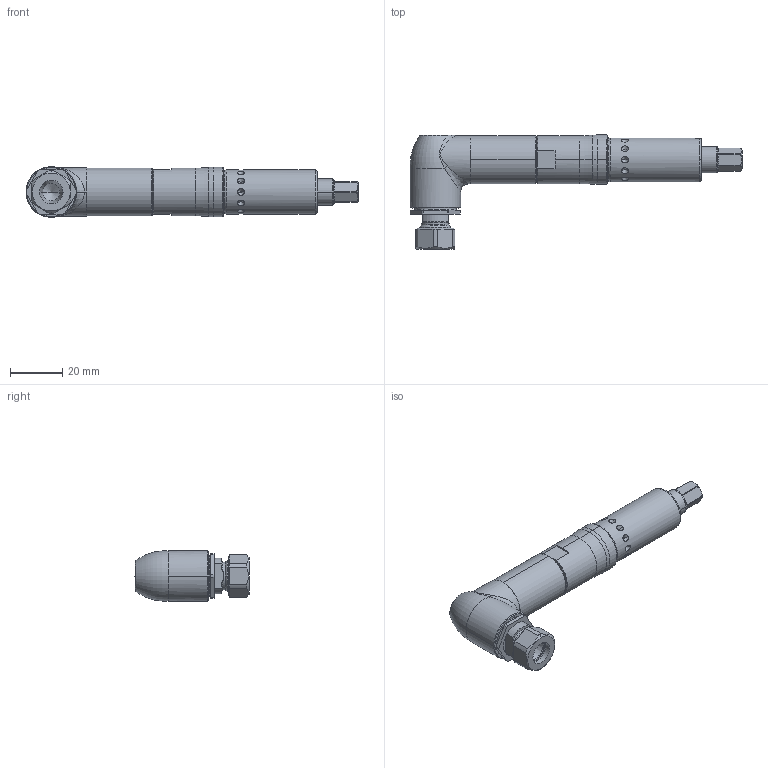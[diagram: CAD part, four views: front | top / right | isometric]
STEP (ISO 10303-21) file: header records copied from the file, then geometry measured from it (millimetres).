
FILE_DESCRIPTION((''),'2;1');
FILE_NAME('90_STD_QR','2008-10-27T',('sdanet'),(''),'PRO/ENGINEER BY PARAMETRIC TECHNOLOGY CORPORATION, 2008250','PRO/ENGINEER BY PARAMETRIC TECHNOLOGY CORPORATION, 2008250','');
FILE_SCHEMA(('CONFIG_CONTROL_DESIGN'));
Length unit declared in the file: millimetre
Products named in the file (1): 90_STD_QR
Bounding box: 127.22 x 43.73 x 19.4 mm (x, y, z)
Volume: 24648.3 mm3; surface area: 22581.3 mm2
Topology: 3 solids, 11 shells, 357 faces, 824 edges, 484 vertices
Faces by surface type: cylinder 112, cone 101, plane 80, torus 31, sphere 24, bspline 8, revolution 1
Entity records: 10932 total; most frequent: CARTESIAN_POINT 2878, DIRECTION 1814, ORIENTED_EDGE 1552, EDGE_CURVE 792, AXIS2_PLACEMENT_3D 768, VERTEX_POINT 484, CIRCLE 419, EDGE_LOOP 402
